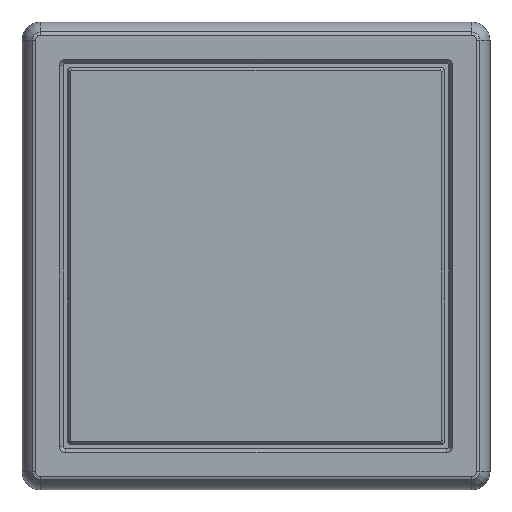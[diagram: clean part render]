
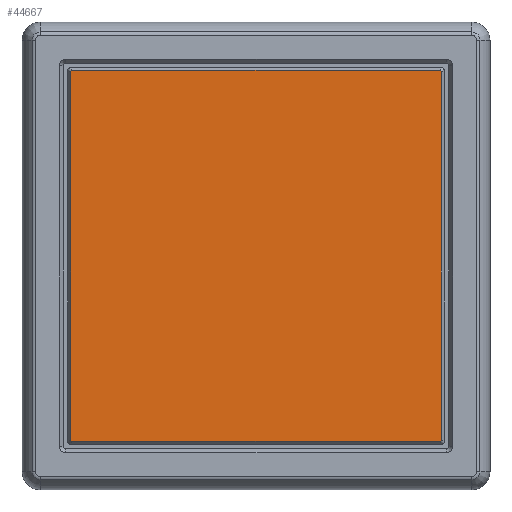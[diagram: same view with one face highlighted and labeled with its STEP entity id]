
A CAD part, top view. The second image highlights one B-rep face of the part: STEP entity #44667.
In plain terms, the highlighted planar face has unit normal (0, 0, 1).
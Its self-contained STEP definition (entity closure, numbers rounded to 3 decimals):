
#683=ELLIPSE('',#48329,0.645,0.5);
#684=ELLIPSE('',#48332,0.645,0.5);
#685=ELLIPSE('',#48335,0.645,0.5);
#686=ELLIPSE('',#48338,0.645,0.5);
#4570=FACE_OUTER_BOUND('',#7460,.T.);
#7460=EDGE_LOOP('',(#32612,#32613,#32614,#32615,#32616,#32617,#32618,#32619));
#10340=LINE('',#80039,#13362);
#10342=LINE('',#80046,#13364);
#10346=LINE('',#80055,#13368);
#10349=LINE('',#80063,#13371);
#13362=VECTOR('',#55680,79.979);
#13364=VECTOR('',#55688,79.979);
#13368=VECTOR('',#55698,79.979);
#13371=VECTOR('',#55707,79.979);
#19118=VERTEX_POINT('',#80035);
#19119=VERTEX_POINT('',#80037);
#19120=VERTEX_POINT('',#80041);
#19121=VERTEX_POINT('',#80045);
#19122=VERTEX_POINT('',#80049);
#19123=VERTEX_POINT('',#80053);
#19124=VERTEX_POINT('',#80057);
#19125=VERTEX_POINT('',#80061);
#23972=EDGE_CURVE('',#19119,#19118,#10340,.T.);
#23974=EDGE_CURVE('',#19118,#19120,#683,.T.);
#23975=EDGE_CURVE('',#19120,#19121,#10342,.T.);
#23978=EDGE_CURVE('',#19121,#19122,#684,.T.);
#23980=EDGE_CURVE('',#19122,#19123,#10346,.T.);
#23982=EDGE_CURVE('',#19123,#19124,#685,.T.);
#23984=EDGE_CURVE('',#19124,#19125,#10349,.T.);
#23985=EDGE_CURVE('',#19125,#19119,#686,.T.);
#32612=ORIENTED_EDGE('',*,*,#23974,.F.);
#32613=ORIENTED_EDGE('',*,*,#23972,.F.);
#32614=ORIENTED_EDGE('',*,*,#23985,.F.);
#32615=ORIENTED_EDGE('',*,*,#23984,.F.);
#32616=ORIENTED_EDGE('',*,*,#23982,.F.);
#32617=ORIENTED_EDGE('',*,*,#23980,.F.);
#32618=ORIENTED_EDGE('',*,*,#23978,.F.);
#32619=ORIENTED_EDGE('',*,*,#23975,.F.);
#43390=PLANE('',#48339);
#44667=ADVANCED_FACE('',(#4570),#43390,.T.);
#48329=AXIS2_PLACEMENT_3D('',#80043,#55684,#55685);
#48332=AXIS2_PLACEMENT_3D('',#80051,#55693,#55694);
#48335=AXIS2_PLACEMENT_3D('',#80059,#55702,#55703);
#48338=AXIS2_PLACEMENT_3D('',#80065,#55710,#55711);
#48339=AXIS2_PLACEMENT_3D('',#80066,#55712,#55713);
#55680=DIRECTION('',(0.,1.,0.));
#55684=DIRECTION('center_axis',(0.,0.,-1.));
#55685=DIRECTION('ref_axis',(-0.707,0.707,0.));
#55688=DIRECTION('',(1.,0.,0.));
#55693=DIRECTION('center_axis',(0.,0.,-1.));
#55694=DIRECTION('ref_axis',(0.707,0.707,0.));
#55698=DIRECTION('',(0.,-1.,0.));
#55702=DIRECTION('center_axis',(0.,0.,-1.));
#55703=DIRECTION('ref_axis',(0.707,-0.707,0.));
#55707=DIRECTION('',(-1.,0.,0.));
#55710=DIRECTION('center_axis',(0.,0.,-1.));
#55711=DIRECTION('ref_axis',(-0.707,-0.707,0.));
#55712=DIRECTION('center_axis',(0.,0.,1.));
#55713=DIRECTION('ref_axis',(1.,0.,0.));
#80035=CARTESIAN_POINT('',(-40.423,39.99,3.));
#80037=CARTESIAN_POINT('',(-40.423,-39.99,3.));
#80039=CARTESIAN_POINT('',(-40.423,-39.99,3.));
#80041=CARTESIAN_POINT('',(-39.99,40.423,3.));
#80043=CARTESIAN_POINT('Origin',(-39.845,39.845,3.));
#80045=CARTESIAN_POINT('',(39.99,40.423,3.));
#80046=CARTESIAN_POINT('',(-39.99,40.423,3.));
#80049=CARTESIAN_POINT('',(40.423,39.99,3.));
#80051=CARTESIAN_POINT('Origin',(39.845,39.845,3.));
#80053=CARTESIAN_POINT('',(40.423,-39.99,3.));
#80055=CARTESIAN_POINT('',(40.423,39.99,3.));
#80057=CARTESIAN_POINT('',(39.99,-40.423,3.));
#80059=CARTESIAN_POINT('Origin',(39.845,-39.845,3.));
#80061=CARTESIAN_POINT('',(-39.99,-40.423,3.));
#80063=CARTESIAN_POINT('',(39.99,-40.423,3.));
#80065=CARTESIAN_POINT('Origin',(-39.845,-39.845,3.));
#80066=CARTESIAN_POINT('Origin',(0.,0.,3.));
